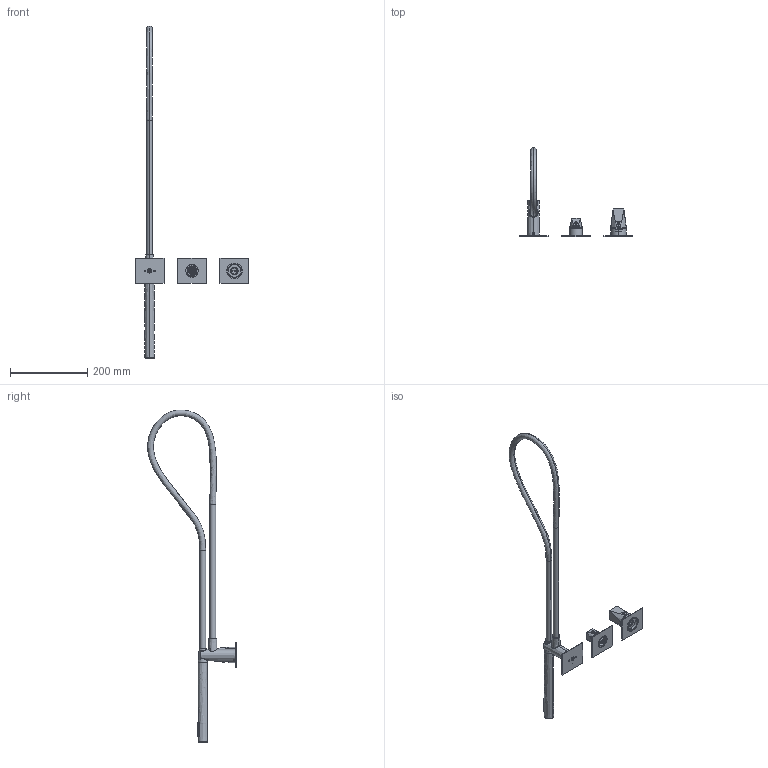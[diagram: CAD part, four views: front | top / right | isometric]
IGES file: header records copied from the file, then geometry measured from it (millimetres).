
Start section:  PTC IGES file: 49569v221_sw0001.igs
Global section: file name: 49569v221_sw0001.igs; native system: Creo Parametric by PTC Inc.; preprocessor: 2022014; author: volponeff; organization: Unknown; date: 20241009.092217; units: millimetre
Bounding box: 295 x 229.92 x 859.85 mm (x, y, z)
Surface area: 171453.8 mm2 (no closed solid volume)
Topology: 0 solids, 0 shells, 1349 faces, 6724 edges, 6716 vertices
Faces by surface type: revolution 885, bspline 464
